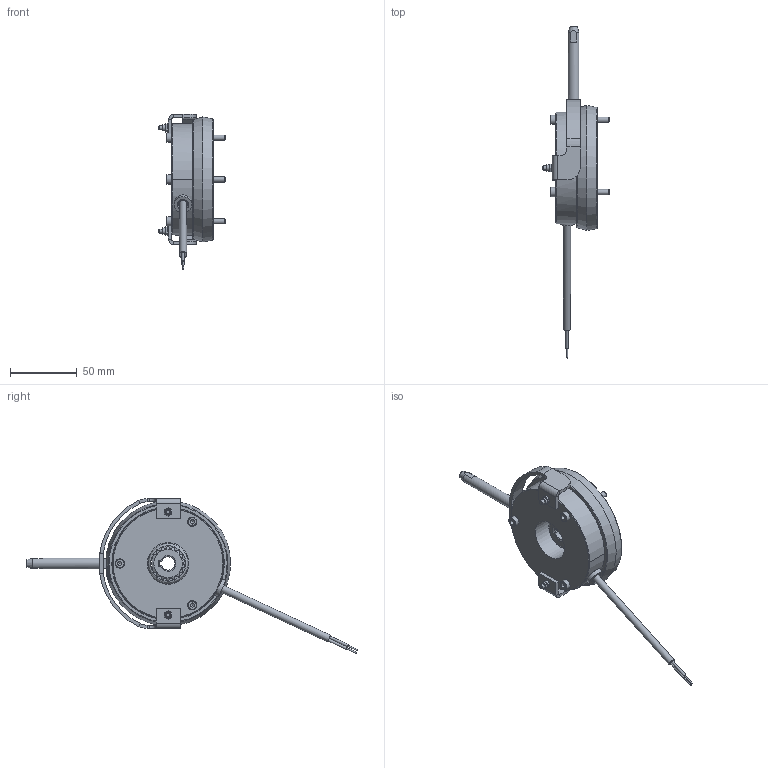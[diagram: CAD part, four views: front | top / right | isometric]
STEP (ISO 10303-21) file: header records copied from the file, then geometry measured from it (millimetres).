
FILE_DESCRIPTION(/* description */ (''),/* implementation_level */ '2;1');
FILE_NAME(/* name */ 'C:\SapWorkDir\Inventor\IP1\ConvertTempPath\5029476_IPT_000.ipt.stp',/* time_stamp */ '2021-04-20T13:54:46+02:00',/* author */ ('WOELK'),/* organization */ (''),/* preprocessor_version */ 'ST-DEVELOPER v17',/* originating_system */ 'Autodesk Inventor 2018',/* authorisation */ '');
FILE_SCHEMA (('AUTOMOTIVE_DESIGN { 1 0 10303 214 3 1 1 }'));
Length unit declared in the file: millimetre
Products named in the file (1): 5029476
Bounding box: 49.6 x 247.71 x 115.71 mm (x, y, z)
Volume: 155592.6 mm3; surface area: 65646.2 mm2
Topology: 1 solids, 1 shells, 712 faces, 2114 edges, 1396 vertices
Faces by surface type: plane 292, cylinder 236, bspline 80, cone 64, torus 40
Full cylindrical faces by diameter (mm): 1 x2, 1.85 x2, 3 x4, 4 x5, 4.134 x1, 4.15 x3, 4.2 x5, 4.5 x6, 4.57 x2, 4.6 x2, 5.3 x1, 5.5 x1, 6 x1, 6.188 x3, 6.6 x1, 6.7 x1, 7 x6, 7.3 x3, 8 x1, 9 x3, 13.2 x1, 29.4 x1, 31 x2, 36 x1, 60 x1, 83 x1
Entity records: 30242 total; most frequent: CARTESIAN_POINT 10482, ORIENTED_EDGE 4220, DIRECTION 3799, EDGE_CURVE 2110, AXIS2_PLACEMENT_3D 1477, VERTEX_POINT 1396, LINE 845, VECTOR 845
